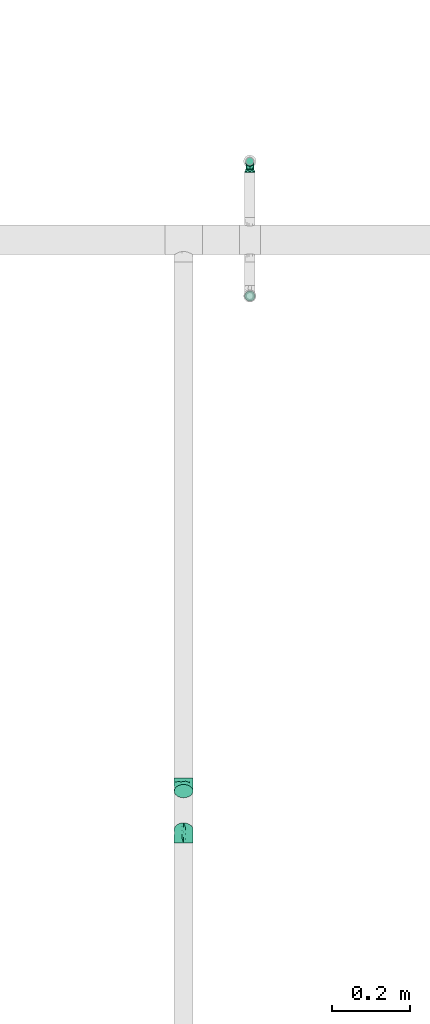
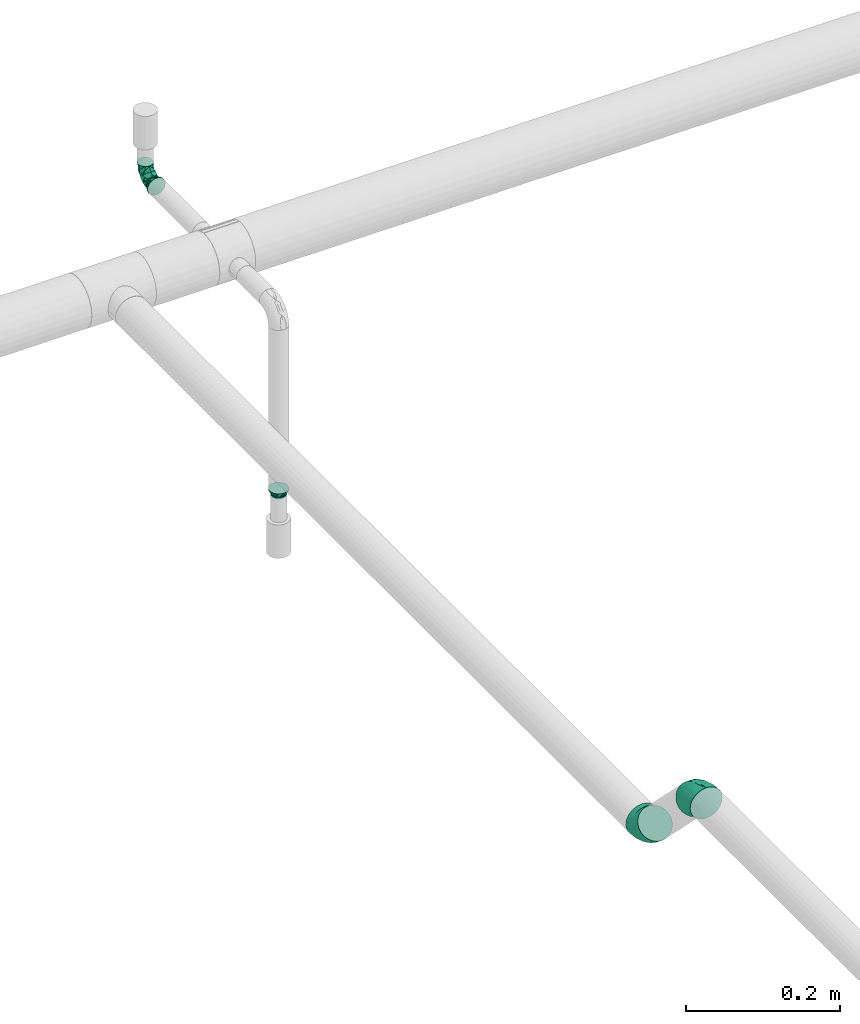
# One storey, part 39 of 51: 5 flow fittings.
"""IFC2X3 building model written with IfcOpenShell, lengths in millimetres."""

from ifc_helpers import new_model, entity, si_unit, converted_unit, derived_unit, direction, frame, origin_with_axes, place, context, subcontext, project, spatial, open_shell, surface_model, source, transform, mapped, type_object, element, save


model = new_model("IFC2X3")

# Units and contexts
model_context = context("Model", 3, precision=0.01, world=frame((0.0, 4.29681676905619e-09, 0.0)), true_north=direction((4.01073788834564e-13, 1.0)))
plan_context = context("Plan", 3, precision=0.01, world=frame((0.0, 4.29681676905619e-09, 0.0)), true_north=direction((4.01073788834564e-13, 1.0)))
body_context = subcontext(model_context, "Body", "Model", "MODEL_VIEW")
ifc_project = project(units=[converted_unit("PLANEANGLEUNIT", "DEGREE", entity("IfcPositiveLengthMeasure", 0.0174532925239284), si_unit("PLANEANGLEUNIT", "RADIAN"), dimensions=[0, 0, 0, 0, 0, 0, 0]), si_unit("AREAUNIT", "SQUARE_METRE"), si_unit("LENGTHUNIT", "METRE", prefix="MILLI"), si_unit("MASSUNIT", "GRAM", prefix="KILO"), si_unit("POWERUNIT", "WATT"), si_unit("PRESSUREUNIT", "PASCAL"), si_unit("FORCEUNIT", "NEWTON", prefix="KILO"), si_unit("ELECTRICVOLTAGEUNIT", "VOLT"), si_unit("ELECTRICCURRENTUNIT", "AMPERE"), si_unit("THERMODYNAMICTEMPERATUREUNIT", "DEGREE_CELSIUS"), si_unit("TIMEUNIT", "SECOND"), si_unit("VOLUMEUNIT", "CUBIC_METRE"), derived_unit("LINEARVELOCITYUNIT", [(si_unit("LENGTHUNIT", "METRE"), 1), (si_unit("TIMEUNIT", "SECOND"), -1)]), derived_unit("VOLUMETRICFLOWRATEUNIT", [(si_unit("VOLUMEUNIT", "CUBIC_METRE"), 1), (si_unit("TIMEUNIT", "SECOND"), -1)]), derived_unit("THERMALTRANSMITTANCEUNIT", [(si_unit("POWERUNIT", "WATT"), 1), (si_unit("THERMODYNAMICTEMPERATUREUNIT", "KELVIN"), -1), (si_unit("AREAUNIT", "SQUARE_METRE"), -1)]), derived_unit("SOUNDPRESSUREUNIT", [(si_unit("PRESSUREUNIT", "PASCAL"), 1)])], contexts=[model_context, plan_context])

# Site, building, storey
site_placement = place(None, frame((0.0, -4.29681676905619e-09, 0.0), z_axis=(0.0, 0.0, 1.0), x_axis=(1.0, 0.0, 0.0)))
site = spatial("IfcSite", under=ifc_project, at=site_placement, Name="ENGM", CompositionType="ELEMENT")
building_placement = place(site_placement, frame((0.0, 4.29681676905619e-09, 0.0), z_axis=(0.0, 0.0, 1.0), x_axis=(1.0, 0.0, 0.0)))
building = spatial("IfcBuilding", under=site, at=building_placement, Name="TH", CompositionType="ELEMENT")
storey_placement = place(building_placement, frame((0.0, 0.0, 210200.0), z_axis=(0.0, 0.0, 1.0), x_axis=(1.0, 0.0, 0.0)))
storey = spatial("IfcBuildingStorey", under=building, at=storey_placement, Name="Nivå F - 0,7 m", CompositionType="ELEMENT", Elevation=210200.0)

# Flow fittings
pipe_fitting_type_1 = type_object("IfcPipeFittingType", Name="magi_pipe_fe_elbow_short_001", PredefinedType="BEND")
shared_shape_1 = source(origin_with_axes(), body_context, "Body", "SurfaceModel", [
    surface_model("IfcShellBasedSurfaceModel", [(-21.4, 2.76936, -10.33541), (-21.4, 0.0, -10.7), (-21.4, 7.56604, -7.56604), (-21.4, 5.35, -9.26647), (-21.4, 10.33541, -2.76936), (-21.4, 9.26647, -5.35), (-21.4, -7.56604, 7.56604), (-21.4, -5.35, -9.26647), (-21.4, -5.35, 9.26647), (-21.4, -7.56604, -7.56604), (-21.4, -9.26647, -5.35), (-21.4, -2.76936, -10.33541), (-21.4, -10.33541, -2.76936), (-21.4, -10.7, 0.0), (-21.4, 10.7, 0.0), (-21.4, 10.33541, 2.76936), (-21.4, 9.26647, 5.35), (-21.4, 7.56604, 7.56604), (-21.4, 5.35, 9.26647), (-21.4, 2.76936, 10.33541), (-21.4, -10.33541, 2.76936), (-21.4, -9.26647, 5.35), (-21.4, -2.76936, 10.33541), (-21.4, 0.0, 10.7), (-7.56604, 21.4, -7.56604), (0.0, 21.4, -10.7), (-2.76936, 21.4, -10.33541), (-5.35, 21.4, -9.26647), (-9.26647, 21.4, -5.35), (-10.33541, 21.4, -2.76936), (10.7, 21.4, 0.0), (5.35, 21.4, -9.26647), (9.26647, 21.4, -5.35), (7.56604, 21.4, -7.56604), (2.76936, 21.4, -10.33541), (10.33541, 21.4, -2.76936), (-10.33541, 21.4, 2.76936), (5.35, 21.4, 9.26647), (-7.56604, 21.4, 7.56604), (-9.26647, 21.4, 5.35), (-5.35, 21.4, 9.26647), (-2.76936, 21.4, 10.33541), (9.26647, 21.4, 5.35), (10.33541, 21.4, 2.76936), (7.56604, 21.4, 7.56604), (0.0, 21.4, 10.7), (2.76936, 21.4, 10.33541), (-10.7, 21.4, 0.0), (-17.99408, -9.78739, 0.0), (-9.96908, -7.6371, 0.0), (-9.09404, -6.9243, 4.95785), (-14.48689, -7.04149, 7.24979), (5.63065, 8.24892, 6.28438), (2.06258, 3.09852, 6.68299), (3.46206, 2.41265, 0.0), (0.98571, 10.3211, 10.08431), (-14.58817, -8.87478, 0.0), (5.00363, 14.04705, 8.8538), (-11.43216, -3.30045, 9.33143), (7.6371, 9.96908, 0.0), (8.87478, 14.58817, 0.0), (-7.84024, 13.84213, 8.94205), (-3.62699, 16.02976, 10.31804), (-15.33449, 3.33478, 10.44017), (-7.99137, -0.64527, 9.75219), (-12.26698, 17.61698, 0.0), (-13.83396, 13.83396, 0.0), (-5.22925, -4.43288, 5.66596), (6.39942, 5.35, 0.0), (-15.15468, 10.16047, 6.44408), (-10.16467, 10.01422, 9.23503), (9.78739, 17.99408, 0.0), (-7.22951, 3.98894, 10.64848), (-2.16379, -1.00373, 6.95774), (0.52471, -0.52471, 0.0), (-2.94157, 6.97816, 10.50675), (-17.61698, 12.26698, 0.0), (-2.41265, -3.46206, 0.0), (-5.35, -6.39942, 0.0), (-8.83498, -0.07405, -10.11828), (-2.16379, -1.00373, -6.95774), (-5.8406, -4.06158, -6.57779), (-7.84024, 13.84213, -8.94205), (-15.33449, 3.33478, -10.44017), (-11.43216, -3.30045, -9.33143), (-15.15468, 10.16047, -6.44408), (-7.22951, 3.98894, -10.64848), (-10.16467, 10.01422, -9.23503), (2.06258, 3.09852, -6.68299), (-2.94157, 6.97816, -10.50675), (-14.48689, -7.04149, -7.24979), (5.00363, 14.04705, -8.8538), (-3.62699, 16.02976, -10.31804), (0.98571, 10.3211, -10.08431), (5.63065, 8.24892, -6.28438), (-9.09404, -6.9243, -4.95785)], [open_shell([[[0, 1, 2]], [[3, 0, 2]], [[4, 5, 2]], [[6, 1, 7]], [[1, 8, 2]], [[9, 10, 7]], [[1, 11, 7]], [[12, 13, 10]], [[7, 10, 13]], [[13, 6, 7]], [[4, 2, 14]], [[8, 15, 2]], [[16, 15, 17]], [[8, 18, 15]], [[17, 15, 18]], [[18, 8, 19]], [[20, 21, 13]], [[13, 21, 6]], [[22, 23, 8]], [[6, 8, 1]], [[8, 23, 19]], [[15, 14, 2]], [[24, 25, 26]], [[24, 26, 27]], [[24, 28, 29]], [[24, 29, 25]], [[25, 29, 30]], [[31, 32, 33]], [[31, 34, 25]], [[32, 30, 35]], [[30, 32, 31]], [[25, 30, 31]], [[29, 36, 30]], [[30, 36, 37]], [[38, 36, 39]], [[36, 40, 37]], [[40, 36, 38]], [[41, 37, 40]], [[30, 42, 43]], [[44, 42, 30]], [[37, 45, 46]], [[30, 37, 44]], [[41, 45, 37]], [[29, 47, 36]], [[21, 20, 48]], [[49, 50, 51]], [[52, 53, 54]], [[52, 55, 53]], [[51, 6, 56]], [[6, 21, 56]], [[41, 57, 45]], [[23, 51, 58]], [[51, 22, 8]], [[57, 59, 60]], [[61, 55, 62]], [[63, 58, 64]], [[65, 66, 61]], [[51, 23, 22]], [[23, 58, 19]], [[67, 58, 50]], [[54, 68, 52]], [[63, 17, 18]], [[20, 13, 48]], [[14, 15, 69]], [[16, 17, 63]], [[62, 40, 38]], [[19, 58, 63]], [[16, 69, 15]], [[63, 18, 19]], [[59, 52, 68]], [[60, 44, 37]], [[57, 46, 45]], [[69, 70, 66]], [[52, 59, 57]], [[39, 62, 38]], [[60, 42, 44]], [[37, 57, 60]], [[37, 46, 57]], [[6, 51, 8]], [[43, 71, 30]], [[51, 56, 49]], [[70, 69, 72]], [[73, 74, 53]], [[75, 72, 73]], [[16, 63, 69]], [[47, 65, 36]], [[42, 71, 43]], [[55, 57, 62]], [[52, 57, 55]], [[41, 40, 62]], [[60, 71, 42]], [[36, 61, 39]], [[48, 56, 21]], [[61, 62, 39]], [[62, 57, 41]], [[69, 63, 72]], [[53, 75, 73]], [[69, 66, 76]], [[67, 64, 58]], [[75, 53, 55]], [[67, 77, 73]], [[55, 61, 75]], [[70, 75, 61]], [[50, 49, 78]], [[67, 50, 78]], [[51, 50, 58]], [[77, 74, 73]], [[73, 72, 64]], [[67, 78, 77]], [[73, 64, 67]], [[63, 64, 72]], [[36, 65, 61]], [[75, 70, 72]], [[14, 69, 76]], [[66, 70, 61]], [[53, 74, 54]], [[79, 80, 81]], [[65, 29, 82]], [[3, 2, 83]], [[0, 84, 1]], [[4, 14, 85]], [[10, 48, 12]], [[83, 5, 85]], [[85, 5, 4]], [[86, 85, 87]], [[83, 86, 79]], [[83, 84, 0]], [[48, 13, 12]], [[80, 77, 81]], [[88, 80, 89]], [[10, 9, 56]], [[7, 11, 90]], [[91, 31, 60]], [[9, 7, 90]], [[90, 11, 1]], [[84, 90, 1]], [[9, 90, 56]], [[28, 92, 82]], [[5, 83, 2]], [[85, 14, 76]], [[80, 88, 74]], [[82, 66, 65]], [[93, 82, 92]], [[28, 82, 29]], [[28, 24, 92]], [[24, 27, 92]], [[71, 60, 32]], [[91, 92, 26]], [[56, 48, 10]], [[35, 30, 71]], [[27, 26, 92]], [[94, 88, 93]], [[25, 91, 26]], [[31, 91, 34]], [[83, 0, 3]], [[94, 93, 91]], [[33, 60, 31]], [[89, 93, 88]], [[34, 91, 25]], [[71, 32, 35]], [[92, 91, 93]], [[59, 91, 60]], [[86, 83, 85]], [[95, 78, 49]], [[33, 32, 60]], [[66, 87, 85]], [[94, 59, 68]], [[89, 80, 86]], [[49, 56, 90]], [[94, 54, 88]], [[59, 94, 91]], [[95, 90, 84]], [[87, 89, 86]], [[82, 93, 89]], [[81, 78, 95]], [[90, 95, 49]], [[81, 95, 84]], [[79, 81, 84]], [[82, 87, 66]], [[83, 79, 84]], [[80, 79, 86]], [[77, 80, 74]], [[77, 78, 81]], [[47, 29, 65]], [[76, 66, 85]], [[89, 87, 82]], [[54, 94, 68]], [[54, 74, 88]]])]),
])
flow_fitting_1_placement = place(storey_placement, frame((909120.0, 484531.46933, 2933.0), z_axis=(-1.0, 0.0, 0.0), x_axis=(0.0, 0.0, -1.0)))
element("IfcFlowFitting", 1, at=flow_fitting_1_placement, inside=storey, type_object=pipe_fitting_type_1, Name="magi_pipe_fe_elbow_short_001", context=body_context, shape_type="MappedRepresentation", body=[
    mapped(shared_shape_1, transform((0.0, 0.0, 0.0), scale=1.0)),
])
shared_shape_2 = source(origin_with_axes(), body_context, "Body", "SurfaceModel", [
    surface_model("IfcShellBasedSurfaceModel", [(-20.04794, 6.26342, -23.37541), (-20.04794, 0.0, -24.2), (-20.04794, 17.11198, -17.11198), (-20.04794, 12.1, -20.95781), (-20.04794, 20.95781, -12.1), (-20.04794, 24.2, 0.0), (-20.04794, -12.1, -20.95781), (-20.04794, -23.37541, -6.26342), (-20.04794, 12.1, 20.95781), (-20.04794, -17.11198, -17.11198), (-20.04794, -20.95781, -12.1), (-20.04794, -6.26342, -23.37541), (-20.04794, -24.2, 0.0), (-20.04794, -23.37541, 6.26342), (-20.04794, 23.37541, -6.26342), (-20.04794, 23.37541, 6.26342), (-20.04794, 20.95781, 12.1), (-20.04794, 6.26342, 23.37541), (-20.04794, 17.11198, 17.11198), (-20.04794, -12.1, 20.95781), (-20.04794, -20.95781, 12.1), (-20.04794, -17.11198, 17.11198), (-20.04794, -6.26342, 23.37541), (-20.04794, 0.0, 24.2), (2.07603, 26.27603, -17.11198), (14.17603, 14.17603, -24.2), (9.74712, 18.60494, -23.37541), (5.62004, 22.73202, -20.95781), (-0.64338, 28.99545, -12.1), (-2.35288, 30.70494, -6.26342), (9.74712, 18.60494, 23.37541), (30.70494, -2.35288, -6.26342), (22.73202, 5.62004, -20.95781), (26.27603, 2.07603, -17.11198), (18.60494, 9.74712, -23.37541), (28.99545, -0.64338, -12.1), (30.70494, -2.35288, 6.26342), (31.28802, -2.93595, 0.0), (-2.35288, 30.70494, 6.26342), (2.07603, 26.27603, 17.11198), (-0.64338, 28.99545, 12.1), (5.62004, 22.73202, 20.95781), (22.73202, 5.62004, 20.95781), (26.27603, 2.07603, 17.11198), (28.99545, -0.64338, 12.1), (14.17603, 14.17603, 24.2), (18.60494, 9.74712, 23.37541), (-2.93595, 31.28802, 0.0), (-9.58895, -8.87394, 22.11756), (-5.35387, -13.67728, 18.67366), (2.4848, -5.99883, 21.81264), (-7.81447, -18.50842, 14.17003), (18.61309, -7.56176, 14.17003), (-7.22262, -2.33004, 23.87939), (-9.2984, 10.07028, 22.62359), (-2.30175, 5.55691, 24.11496), (-12.12531, 3.35343, 24.05314), (0.71832, 14.54853, 22.58726), (4.3748, 11.4552, 23.84802), (6.16359, -14.88023, 13.48593), (13.05524, 0.50559, 22.11756), (-9.96931, 24.06805, 9.94241), (-10.67213, 20.29527, 15.27183), (-6.87406, 16.59544, 19.75701), (2.08331, -20.34427, 4.27799), (11.06314, -16.77413, 4.27799), (7.15607, -17.27629, 8.42123), (-6.15653, -21.43683, 0.0), (-6.81948, -22.57273, 4.40876), (23.3224, -9.25737, 4.65451), (17.8727, -11.73622, 8.40404), (-9.69317, 25.93098, 5.08471), (-4.33914, -20.93667, 8.40404), (6.75475, 3.45958, 23.87939), (13.45706, -5.88554, 18.67366), (7.73488, -18.67365, 0.0), (19.51145, -10.8048, 0.0), (-10.787, 26.04211, 0.0), (4.06192, -9.80635, 19.29816), (-7.22262, -2.33004, -23.87939), (12.91245, -15.85869, -4.27799), (4.03828, -19.68392, -4.27799), (7.15607, -17.27629, -8.42123), (6.75475, 3.45958, -23.87939), (-10.79529, 9.77944, -22.58726), (-11.1935, 5.0066, -23.84802), (-6.80459, 21.89726, -15.27183), (13.45706, -5.88554, -18.67366), (-9.96931, 24.06805, -9.9424), (17.8727, -11.73622, -8.40404), (-11.48187, 25.19008, -5.08471), (-0.5458, 13.69573, -22.62359), (-9.94548, -23.03738, -4.65451), (-4.33914, -20.93667, -8.40404), (6.16359, -14.88023, -13.48593), (18.61309, -7.56176, -14.17003), (-7.81447, -18.50842, -14.17003), (-5.35387, -13.67728, -18.67366), (4.06192, -9.80635, -19.29816), (-9.58895, -8.87394, -22.11756), (2.4848, -5.99883, -21.81264), (13.05524, 0.50559, -22.11756), (-2.30175, 5.55691, -24.11496), (-6.87406, 16.59544, -19.75701), (20.78343, -11.13923, -4.40876), (6.20266, 10.94512, -24.05314)], [open_shell([[[0, 1, 2]], [[3, 0, 2]], [[4, 2, 5]], [[6, 2, 1]], [[2, 7, 8]], [[9, 10, 6]], [[1, 11, 6]], [[10, 7, 6]], [[6, 7, 2]], [[12, 13, 7]], [[4, 5, 14]], [[8, 15, 2]], [[16, 15, 8]], [[8, 7, 17]], [[18, 16, 8]], [[7, 19, 17]], [[20, 21, 13]], [[21, 7, 13]], [[22, 23, 19]], [[21, 19, 7]], [[19, 23, 17]], [[15, 5, 2]], [[24, 25, 26]], [[24, 26, 27]], [[24, 28, 29]], [[25, 24, 30]], [[31, 25, 30]], [[32, 31, 33]], [[32, 34, 25]], [[33, 31, 35]], [[25, 31, 32]], [[31, 36, 37]], [[29, 38, 24]], [[24, 38, 30]], [[39, 38, 40]], [[41, 30, 38]], [[41, 38, 39]], [[30, 42, 31]], [[36, 43, 44]], [[36, 31, 43]], [[42, 45, 46]], [[31, 42, 43]], [[30, 45, 42]], [[38, 29, 47]], [[48, 49, 50]], [[21, 51, 49]], [[19, 21, 49]], [[44, 43, 52]], [[23, 22, 53]], [[22, 19, 48]], [[8, 17, 54]], [[55, 56, 53]], [[23, 56, 17]], [[30, 57, 58]], [[49, 51, 59]], [[42, 46, 60]], [[61, 16, 62]], [[63, 18, 8]], [[64, 65, 66]], [[67, 64, 68]], [[69, 36, 70]], [[61, 71, 15]], [[20, 13, 72]], [[5, 15, 71]], [[15, 16, 61]], [[21, 20, 51]], [[54, 63, 8]], [[72, 66, 59]], [[12, 67, 68]], [[41, 39, 63]], [[45, 58, 73]], [[43, 42, 74]], [[40, 38, 61]], [[73, 46, 45]], [[64, 67, 75]], [[43, 74, 52]], [[55, 58, 57]], [[74, 42, 60]], [[20, 72, 51]], [[76, 69, 65]], [[36, 69, 37]], [[56, 54, 17]], [[71, 61, 38]], [[77, 71, 47]], [[52, 59, 70]], [[49, 78, 50]], [[50, 73, 53]], [[30, 41, 57]], [[50, 60, 73]], [[61, 62, 40]], [[55, 53, 73]], [[39, 40, 62]], [[63, 54, 57]], [[48, 53, 22]], [[16, 18, 62]], [[36, 44, 70]], [[59, 51, 72]], [[78, 59, 74]], [[59, 52, 74]], [[70, 44, 52]], [[18, 63, 62]], [[39, 62, 63]], [[63, 57, 41]], [[55, 57, 54]], [[49, 48, 19]], [[53, 48, 50]], [[73, 60, 46]], [[74, 60, 50]], [[73, 58, 55]], [[45, 30, 58]], [[53, 56, 23]], [[54, 56, 55]], [[64, 66, 72]], [[70, 59, 66]], [[64, 72, 68]], [[65, 64, 75]], [[76, 65, 75]], [[70, 66, 65]], [[72, 13, 68]], [[12, 68, 13]], [[59, 78, 49]], [[74, 50, 78]], [[47, 71, 38]], [[71, 77, 5]], [[65, 69, 70]], [[37, 69, 76]], [[11, 1, 79]], [[80, 81, 82]], [[25, 34, 83]], [[84, 85, 0]], [[4, 86, 2]], [[32, 33, 87]], [[88, 86, 4]], [[35, 31, 89]], [[14, 90, 88]], [[27, 26, 91]], [[92, 7, 93]], [[3, 84, 0]], [[67, 92, 81]], [[94, 95, 89]], [[7, 92, 12]], [[96, 9, 97]], [[9, 6, 97]], [[98, 94, 97]], [[7, 10, 93]], [[9, 96, 10]], [[99, 6, 11]], [[96, 94, 93]], [[100, 79, 83]], [[101, 83, 34]], [[5, 77, 90]], [[80, 76, 75]], [[47, 29, 90]], [[102, 83, 79]], [[24, 27, 103]], [[88, 4, 14]], [[28, 86, 88]], [[99, 97, 6]], [[91, 103, 27]], [[85, 79, 1]], [[103, 91, 84]], [[2, 103, 3]], [[76, 80, 104]], [[25, 105, 26]], [[101, 34, 32]], [[89, 82, 94]], [[33, 35, 95]], [[87, 100, 101]], [[87, 95, 94]], [[100, 99, 79]], [[37, 76, 104]], [[28, 24, 86]], [[105, 91, 26]], [[95, 87, 33]], [[87, 98, 100]], [[105, 83, 102]], [[102, 85, 84]], [[29, 88, 90]], [[35, 89, 95]], [[29, 28, 88]], [[94, 96, 97]], [[93, 10, 96]], [[24, 103, 86]], [[2, 86, 103]], [[103, 84, 3]], [[102, 84, 91]], [[79, 99, 11]], [[97, 99, 100]], [[87, 101, 32]], [[83, 101, 100]], [[79, 85, 102]], [[1, 0, 85]], [[83, 105, 25]], [[91, 105, 102]], [[80, 82, 89]], [[93, 94, 82]], [[80, 89, 104]], [[81, 80, 75]], [[67, 81, 75]], [[93, 82, 81]], [[89, 31, 104]], [[37, 104, 31]], [[94, 98, 87]], [[97, 100, 98]], [[5, 90, 14]], [[90, 77, 47]], [[81, 92, 93]], [[12, 92, 67]]])]),
])
for number, where, z_axis, x_axis, name in (
    (2, (908949.82472, 482800.51183, 3060.0), (1.0, 0.0, 0.0), (0.0, -0.707106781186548, 0.707106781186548), "magi_pipe_fe_elbow_short_001"),
    (3, (908949.82472, 482927.51183, 2933.0), (1.0, 0.0, 0.0), (0.0, 0.707106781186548, -0.707106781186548), "magi_pipe_fe_elbow_short_001"),
):
    element("IfcFlowFitting", number, at=place(storey_placement, frame(where, z_axis=z_axis, x_axis=x_axis)), inside=storey, type_object=pipe_fitting_type_1, Name=name, context=body_context, shape_type="MappedRepresentation", body=[
        mapped(shared_shape_2, transform((0.0, 0.0, 0.0), scale=1.0)),
    ])
pipe_fitting_type_2 = type_object("IfcPipeFittingType", Name="magi_pipe_fe_reducer_centric_short_NOR", PredefinedType="TRANSITION")
shared_shape_3 = source(origin_with_axes(), body_context, "Body", "SurfaceModel", [
    surface_model("IfcShellBasedSurfaceModel", [(-2.0, -7.56604, -7.56604), (-2.0, -10.33541, -2.76936), (-2.0, -5.35, -9.26647), (0.0, -10.7, 0.0), (0.0, -5.35, 9.26647), (0.0, -5.35, -9.26647), (-2.0, -2.76936, 10.33541), (-2.0, 0.0, 10.7), (-2.0, -10.33541, 2.76936), (-2.0, -5.35, 9.26647), (-2.0, -7.56604, 7.56604), (-2.0, -9.26647, 5.35), (-2.0, 9.26647, 5.35), (-2.0, 5.35, 9.26647), (-2.0, 7.56604, 7.56604), (-2.0, 2.76936, 10.33541), (-2.0, 10.7, 0.0), (-2.0, 10.33541, -2.76936), (-2.0, 10.33541, 2.76936), (-2.0, -9.26647, -5.35), (-2.0, 5.35, -9.26647), (-2.0, -2.76936, -10.33541), (-2.0, 9.26647, -5.35), (-2.0, 7.56604, -7.56604), (-2.0, 2.76936, -10.33541), (-2.0, 0.0, -10.7), (-2.0, -10.7, 0.0), (0.0, -2.76936, -10.33541), (0.0, 0.0, -10.7), (0.0, -7.56604, -7.56604), (0.0, -10.33541, -2.76936), (0.0, 10.33541, -2.76936), (0.0, -9.26647, -5.35), (0.0, 9.26647, 5.35), (0.0, 2.76936, -10.33541), (0.0, 5.35, -9.26647), (0.0, 9.26647, -5.35), (0.0, 7.56604, -7.56604), (0.0, -10.33541, 2.76936), (0.0, -7.56604, 7.56604), (0.0, -9.26647, 5.35), (0.0, 0.0, 10.7), (0.0, -2.76936, 10.33541), (0.0, 10.7, 0.0), (0.0, 10.33541, 2.76936), (0.0, 5.35, 9.26647), (0.0, 2.76936, 10.33541), (0.0, 7.56604, 7.56604), (7.4, -6.7, -11.60474), (7.4, -3.46818, -12.94341), (7.4, -13.4, 0.0), (7.4, -9.47523, -9.47523), (7.4, -12.94341, -3.46818), (7.4, -11.60474, -6.7), (7.4, 12.94341, -3.46818), (7.4, 3.46818, -12.94341), (7.4, 6.7, -11.60474), (7.4, 0.0, -13.4), (7.4, 11.60474, -6.7), (7.4, 9.47523, -9.47523), (7.4, -12.94341, 3.46818), (7.4, -9.47523, 9.47523), (7.4, -11.60474, 6.7), (7.4, 0.0, 13.4), (7.4, -3.46818, 12.94341), (7.4, -6.7, 11.60474), (7.4, 6.7, 11.60474), (7.4, 11.60474, 6.7), (7.4, 9.47523, 9.47523), (7.4, 12.94341, 3.46818), (7.4, 13.4, 0.0), (7.4, 3.46818, 12.94341), (5.4, -6.7, 11.60474), (5.4, -3.46818, 12.94341), (5.4, 0.0, 13.4), (5.4, 3.46818, 12.94341), (5.4, -12.94341, 3.46818), (5.4, -11.60474, 6.7), (5.4, -9.47523, 9.47523), (5.4, 12.94341, 3.46818), (5.4, 6.7, 11.60474), (5.4, 9.47523, 9.47523), (5.4, 11.60474, 6.7), (5.4, 13.4, 0.0), (5.4, 6.7, -11.60474), (5.4, -9.47523, -9.47523), (5.4, -12.94341, -3.46818), (5.4, -11.60474, -6.7), (5.4, -6.7, -11.60474), (5.4, -3.46818, -12.94341), (5.4, 11.60474, -6.7), (5.4, 9.47523, -9.47523), (5.4, 12.94341, -3.46818), (5.4, 3.46818, -12.94341), (5.4, 0.0, -13.4), (5.4, -13.4, 0.0)], [open_shell([[[0, 1, 2]], [[3, 4, 5]], [[6, 7, 8]], [[9, 6, 10]], [[8, 11, 10]], [[6, 8, 10]], [[12, 8, 7]], [[13, 14, 15]], [[12, 15, 14]], [[16, 17, 18]], [[7, 15, 12]], [[17, 12, 18]], [[1, 8, 12]], [[1, 12, 17]], [[19, 1, 0]], [[17, 2, 1]], [[2, 20, 21]], [[22, 23, 17]], [[20, 17, 23]], [[24, 25, 20]], [[2, 17, 20]], [[20, 25, 21]], [[26, 8, 1]], [[27, 28, 5]], [[29, 5, 30]], [[30, 5, 31]], [[32, 29, 30]], [[30, 31, 33]], [[34, 35, 28]], [[35, 5, 28]], [[36, 31, 37]], [[35, 37, 31]], [[35, 31, 5]], [[38, 3, 30]], [[39, 40, 38]], [[33, 39, 30]], [[39, 41, 42]], [[4, 39, 42]], [[41, 39, 33]], [[43, 44, 31]], [[31, 44, 33]], [[45, 46, 47]], [[33, 47, 46]], [[33, 46, 41]], [[39, 38, 30]], [[16, 31, 17]], [[17, 36, 22]], [[20, 23, 35]], [[37, 23, 22]], [[24, 20, 34]], [[31, 36, 17]], [[16, 43, 31]], [[20, 35, 34]], [[35, 23, 37]], [[22, 36, 37]], [[24, 34, 28]], [[28, 25, 24]], [[25, 27, 21]], [[21, 5, 2]], [[19, 0, 32]], [[29, 0, 2]], [[1, 19, 30]], [[5, 29, 2]], [[21, 27, 5]], [[1, 30, 3]], [[30, 19, 32]], [[0, 29, 32]], [[1, 3, 26]], [[28, 27, 25]], [[26, 38, 8]], [[8, 40, 11]], [[9, 10, 4]], [[39, 10, 11]], [[6, 9, 42]], [[38, 40, 8]], [[26, 3, 38]], [[9, 4, 42]], [[4, 10, 39]], [[11, 40, 39]], [[6, 42, 41]], [[41, 7, 6]], [[7, 46, 15]], [[15, 45, 13]], [[12, 14, 33]], [[47, 14, 13]], [[18, 12, 44]], [[45, 47, 13]], [[15, 46, 45]], [[18, 44, 43]], [[44, 12, 33]], [[14, 47, 33]], [[18, 43, 16]], [[41, 46, 7]], [[4, 45, 43]], [[35, 5, 43]], [[4, 43, 5]], [[48, 49, 50]], [[51, 48, 50]], [[51, 50, 52]], [[53, 51, 52]], [[54, 50, 49]], [[55, 56, 57]], [[56, 49, 57]], [[58, 54, 59]], [[56, 59, 54]], [[56, 54, 49]], [[54, 60, 50]], [[61, 62, 60]], [[63, 61, 60]], [[63, 64, 65]], [[61, 63, 65]], [[66, 63, 60]], [[67, 68, 69]], [[69, 54, 70]], [[68, 66, 69]], [[66, 60, 69]], [[63, 66, 71]], [[60, 54, 69]], [[72, 73, 74]], [[72, 74, 75]], [[76, 77, 78]], [[75, 78, 72]], [[78, 79, 76]], [[80, 81, 75]], [[79, 75, 81]], [[82, 79, 81]], [[79, 78, 75]], [[83, 84, 79]], [[84, 76, 79]], [[85, 86, 76]], [[87, 86, 85]], [[88, 76, 84]], [[76, 88, 85]], [[89, 88, 84]], [[90, 91, 92]], [[91, 83, 92]], [[93, 94, 84]], [[91, 84, 83]], [[84, 94, 89]], [[95, 76, 86]], [[83, 54, 92]], [[92, 58, 90]], [[84, 91, 56]], [[59, 91, 90]], [[93, 84, 55]], [[54, 58, 92]], [[83, 70, 54]], [[84, 56, 55]], [[56, 91, 59]], [[90, 58, 59]], [[93, 55, 57]], [[57, 94, 93]], [[94, 49, 89]], [[89, 48, 88]], [[87, 85, 53]], [[51, 85, 88]], [[86, 87, 52]], [[48, 51, 88]], [[89, 49, 48]], [[86, 52, 50]], [[52, 87, 53]], [[85, 51, 53]], [[86, 50, 95]], [[57, 49, 94]], [[95, 60, 76]], [[76, 62, 77]], [[72, 78, 65]], [[61, 78, 77]], [[73, 72, 64]], [[60, 62, 76]], [[95, 50, 60]], [[72, 65, 64]], [[65, 78, 61]], [[77, 62, 61]], [[73, 64, 63]], [[63, 74, 73]], [[74, 71, 75]], [[75, 66, 80]], [[82, 81, 67]], [[68, 81, 80]], [[79, 82, 69]], [[66, 68, 80]], [[75, 71, 66]], [[79, 69, 70]], [[69, 82, 67]], [[81, 68, 67]], [[79, 70, 83]], [[63, 71, 74]], [[91, 81, 74]], [[74, 78, 95]], [[83, 81, 91]], [[85, 94, 91]], [[91, 95, 85]], [[74, 95, 91]], [[91, 35, 43]], [[43, 83, 91]], [[91, 94, 35]], [[85, 3, 5]], [[5, 94, 85]], [[3, 85, 95]], [[35, 94, 5]], [[78, 4, 3]], [[3, 95, 78]], [[78, 74, 4]], [[81, 43, 45]], [[45, 74, 81]], [[43, 81, 83]], [[4, 74, 45]]])]),
])
flow_fitting_2_placement = place(storey_placement, frame((909120.0, 484510.06933, 2933.0), z_axis=(0.0, 0.0, 1.0), x_axis=(0.0, -1.0, 0.0)))
element("IfcFlowFitting", 4, at=flow_fitting_2_placement, inside=storey, type_object=pipe_fitting_type_2, Name="magi_pipe_fe_reducer_centric_short_NOR", context=body_context, shape_type="MappedRepresentation", body=[
    mapped(shared_shape_3, transform((0.0, 0.0, 0.0), scale=1.0)),
])
shared_shape_4 = source(origin_with_axes(), body_context, "Body", "SurfaceModel", [
    surface_model("IfcShellBasedSurfaceModel", [(-2.0, 7.56604, 7.56604), (-2.0, 9.26647, 5.35), (-2.0, 10.33541, 2.76936), (-2.0, -2.76936, 10.33541), (-2.0, -7.56604, 7.56604), (-2.0, -5.35, 9.26647), (-2.0, -10.33541, 2.76936), (-2.0, -10.33541, -2.76936), (-2.0, -10.7, 0.0), (-2.0, 7.56604, -7.56604), (-2.0, 10.33541, -2.76936), (-2.0, 9.26647, -5.35), (-2.0, -7.56604, -7.56604), (-2.0, -9.26647, -5.35), (-2.0, -5.35, -9.26647), (-2.0, 0.0, -10.7), (-2.0, -2.76936, -10.33541), (-2.0, 2.76936, -10.33541), (-2.0, 10.7, 0.0), (0.0, 5.35, -9.26647), (0.0, 0.0, -10.7), (0.0, 2.76936, -10.33541), (0.0, 10.33541, -2.76936), (0.0, 7.56604, -7.56604), (0.0, 9.26647, -5.35), (0.0, -5.35, -9.26647), (0.0, -2.76936, -10.33541), (0.0, -7.56604, -7.56604), (0.0, -10.33541, -2.76936), (0.0, -9.26647, -5.35), (0.0, 10.33541, 2.76936), (0.0, 9.26647, 5.35), (0.0, 7.56604, 7.56604), (0.0, 2.76936, 10.33541), (0.0, 5.35, 9.26647), (0.0, -7.56604, 7.56604), (0.0, -2.76936, 10.33541), (0.0, -5.35, 9.26647), (0.0, -10.7, 0.0), (-2.0, 5.35, -9.26647), (0.0, 10.7, 0.0), (-2.0, 5.35, 9.26647), (-2.0, 2.76936, 10.33541), (0.0, 0.0, 10.7), (-2.0, 0.0, 10.7), (0.0, -9.26647, 5.35), (-2.0, -9.26647, 5.35), (0.0, -10.33541, 2.76936), (5.4, -12.94341, 3.46818), (5.4, -6.7, -11.60474), (5.4, -9.47523, -9.47523), (5.4, 9.47523, -9.47523), (5.4, 0.0, -13.4), (5.4, -9.47523, 9.47523), (5.4, 0.0, 13.4), (5.4, 9.47523, 9.47523), (7.4, 12.94341, -3.46818), (7.4, 3.46818, -12.94341), (7.4, 6.7, -11.60474), (7.4, 9.47523, -9.47523), (7.4, -6.7, -11.60474), (7.4, -12.94341, 3.46818), (7.4, 11.60474, -6.7), (7.4, 0.0, -13.4), (7.4, -3.46818, -12.94341), (7.4, -9.47523, -9.47523), (7.4, -12.94341, -3.46818), (7.4, -11.60474, -6.7), (7.4, 13.4, 0.0), (7.4, 12.94341, 3.46818), (7.4, 11.60474, 6.7), (7.4, 9.47523, 9.47523), (7.4, 0.0, 13.4), (7.4, 6.7, 11.60474), (7.4, 3.46818, 12.94341), (7.4, -6.7, 11.60474), (7.4, -9.47523, 9.47523), (7.4, -11.60474, 6.7), (7.4, -13.4, 0.0), (7.4, -3.46818, 12.94341), (5.4, 3.46818, 12.94341), (5.4, 6.7, 11.60474), (5.4, -3.46818, 12.94341), (5.4, 11.60474, 6.7), (5.4, 12.94341, 3.46818), (5.4, -6.7, 11.60474), (5.4, -11.60474, 6.7), (5.4, -12.94341, -3.46818), (5.4, -13.4, 0.0), (5.4, 12.94341, -3.46818), (5.4, 11.60474, -6.7), (5.4, 6.7, -11.60474), (5.4, 3.46818, -12.94341), (5.4, -11.60474, -6.7), (5.4, -3.46818, -12.94341), (5.4, 13.4, 0.0)], [open_shell([[[0, 1, 2]], [[3, 4, 5]], [[6, 7, 8]], [[9, 10, 11]], [[7, 12, 13]], [[12, 7, 14]], [[14, 15, 16]], [[17, 15, 14]], [[10, 2, 18]], [[19, 20, 21]], [[22, 19, 23]], [[22, 23, 24]], [[20, 25, 26]], [[20, 19, 25]], [[27, 28, 29]], [[28, 27, 25]], [[30, 31, 32]], [[33, 32, 34]], [[35, 36, 37]], [[7, 28, 8]], [[13, 29, 7]], [[25, 12, 14]], [[13, 12, 27]], [[26, 14, 16]], [[7, 29, 28]], [[28, 38, 8]], [[26, 25, 14]], [[27, 12, 25]], [[27, 29, 13]], [[20, 26, 16]], [[16, 15, 20]], [[17, 21, 15]], [[39, 19, 17]], [[24, 9, 11]], [[39, 9, 23]], [[22, 11, 10]], [[39, 23, 19]], [[19, 21, 17]], [[40, 22, 10]], [[24, 11, 22]], [[24, 23, 9]], [[18, 40, 10]], [[15, 21, 20]], [[2, 30, 18]], [[1, 31, 2]], [[34, 0, 41]], [[1, 0, 32]], [[33, 41, 42]], [[2, 31, 30]], [[30, 40, 18]], [[33, 34, 41]], [[32, 0, 34]], [[32, 31, 1]], [[43, 33, 42]], [[42, 44, 43]], [[3, 36, 44]], [[5, 37, 3]], [[45, 4, 46]], [[5, 4, 35]], [[47, 46, 6]], [[5, 35, 37]], [[37, 36, 3]], [[38, 47, 6]], [[45, 46, 47]], [[45, 35, 4]], [[8, 38, 6]], [[44, 36, 43]], [[38, 37, 25]], [[40, 37, 34]], [[40, 19, 25]], [[40, 25, 37]], [[39, 10, 9]], [[42, 7, 44]], [[41, 7, 42]], [[0, 2, 41]], [[6, 44, 7]], [[3, 44, 4]], [[4, 6, 46]], [[44, 6, 4]], [[41, 2, 7]], [[7, 2, 10]], [[10, 39, 7]], [[17, 7, 39]], [[14, 7, 17]], [[28, 19, 22]], [[43, 28, 22]], [[19, 28, 25]], [[22, 40, 30]], [[30, 32, 33]], [[43, 22, 33]], [[43, 35, 28]], [[47, 35, 45]], [[38, 28, 47]], [[47, 28, 35]], [[36, 35, 43]], [[33, 22, 30]], [[48, 49, 50]], [[51, 52, 19]], [[25, 52, 50]], [[19, 52, 25]], [[53, 54, 37]], [[34, 54, 55]], [[37, 54, 34]], [[56, 57, 58]], [[56, 58, 59]], [[60, 57, 61]], [[56, 59, 62]], [[57, 56, 61]], [[63, 60, 64]], [[63, 57, 60]], [[65, 66, 67]], [[61, 66, 65]], [[65, 60, 61]], [[56, 68, 61]], [[69, 70, 71]], [[69, 71, 72]], [[73, 74, 72]], [[73, 72, 71]], [[69, 72, 75]], [[61, 76, 77]], [[78, 66, 61]], [[61, 75, 76]], [[61, 69, 75]], [[79, 75, 72]], [[61, 68, 69]], [[54, 80, 81]], [[82, 54, 81]], [[55, 83, 84]], [[81, 55, 82]], [[84, 48, 55]], [[82, 53, 85]], [[53, 82, 48]], [[53, 48, 86]], [[82, 55, 48]], [[48, 87, 88]], [[48, 84, 49]], [[89, 51, 84]], [[51, 89, 90]], [[91, 49, 84]], [[84, 51, 91]], [[49, 91, 92]], [[87, 50, 93]], [[87, 48, 50]], [[49, 52, 94]], [[92, 52, 49]], [[95, 89, 84]], [[87, 66, 88]], [[93, 67, 87]], [[60, 50, 49]], [[93, 50, 65]], [[64, 49, 94]], [[87, 67, 66]], [[66, 78, 88]], [[64, 60, 49]], [[65, 50, 60]], [[65, 67, 93]], [[63, 64, 94]], [[94, 52, 63]], [[92, 57, 52]], [[91, 58, 92]], [[62, 51, 90]], [[91, 51, 59]], [[56, 90, 89]], [[91, 59, 58]], [[58, 57, 92]], [[68, 56, 89]], [[62, 90, 56]], [[62, 59, 51]], [[95, 68, 89]], [[52, 57, 63]], [[84, 69, 95]], [[83, 70, 84]], [[73, 55, 81]], [[83, 55, 71]], [[74, 81, 80]], [[84, 70, 69]], [[69, 68, 95]], [[74, 73, 81]], [[71, 55, 73]], [[71, 70, 83]], [[72, 74, 80]], [[80, 54, 72]], [[82, 79, 54]], [[85, 75, 82]], [[77, 53, 86]], [[85, 53, 76]], [[61, 86, 48]], [[85, 76, 75]], [[75, 79, 82]], [[78, 61, 48]], [[77, 86, 61]], [[77, 76, 53]], [[88, 78, 48]], [[54, 79, 72]], [[55, 54, 51]], [[51, 95, 55]], [[88, 54, 53]], [[88, 50, 51]], [[52, 51, 50]], [[88, 51, 54]], [[38, 25, 50]], [[50, 88, 38]], [[19, 40, 51]], [[95, 51, 40]], [[40, 34, 55]], [[55, 95, 40]], [[37, 38, 53]], [[88, 53, 38]]])]),
])
flow_fitting_3_placement = place(storey_placement, frame((909120.0, 484185.40642, 2639.92692999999), z_axis=(0.0, -1.0, 0.0), x_axis=(0.0, 0.0, 1.0)))
element("IfcFlowFitting", 5, at=flow_fitting_3_placement, inside=storey, type_object=pipe_fitting_type_2, Name="magi_pipe_fe_reducer_centric_short_NOR", context=body_context, shape_type="MappedRepresentation", body=[
    mapped(shared_shape_4, transform((0.0, 0.0, 0.0), scale=1.0)),
])

save(model, "model.ifc")
